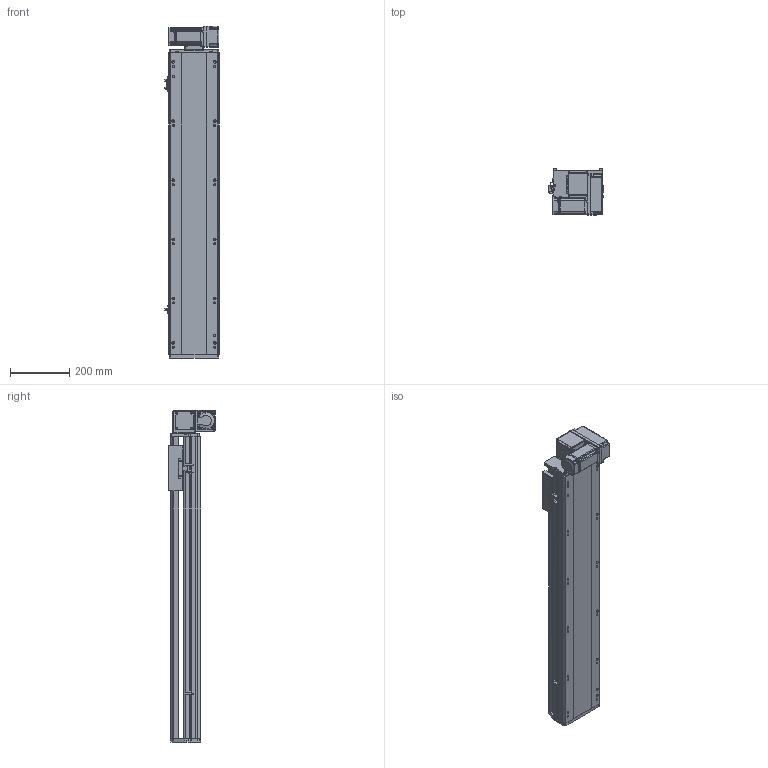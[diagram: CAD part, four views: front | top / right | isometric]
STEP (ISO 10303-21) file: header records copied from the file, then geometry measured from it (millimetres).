
FILE_DESCRIPTION (( 'STEP AP214' ), '1' );
FILE_NAME ('RTB17S-XX-750-RM-M40-C4.STEP', '2025-12-11T08:14:49', ( '' ), ( '' ), 'SwSTEP 2.0', 'SolidWorks 2018', '' );
FILE_SCHEMA (( 'AUTOMOTIVE_DESIGN' ));
Length unit declared in the file: millimetre
Products named in the file (14): RTB14-L-017P^RTB17S-RM-々湍釱蚾饜-400W_RTB17S-XX-XX-RM-M40-C4; RTB14-L-008-M20--萇儂啣^RTB17S-RM-々湍釱蚾饜-400W_RTB17S-XX-XX-RM-M40-C4; RTB14-L-018P^RTB17S-RM-々湍釱蚾饜-400W_RTB17S-XX-XX-RM-M40-C4; RTB17S-L-014-T20--々湍釱^RTB17S-RM-々湍釱蚾饜-400W_RTB17S-XX-XX-RM-M40-C4; RTB14-L-005P--轴承塑胶压盖^RTB17S-RM-皮带座装配-400W_RTB17S-XX-XX-RM-M40-C4; RTB17S-L-001耜醱啣^RTB17S-XX-XX-RM-M40-C4; 400W侜督萇儂^RTB17S-XX-XX-RM-M40-C4; OMRON EE-SX672 传感器^RTB17S-XX-XX-RM-M40-C4; RTB17S-L-007奻裔^RTB17S-XX-XX-RM-M40-C4; RTB17-R-011菁釱^RTB17S-XX-XX-RM-M40-C4; RTB17S-XX-750-RM-M40-C4; RTH13-BL-012覜茼え俋离^RTB17S-XX-XX-RM-M40-C4; RTB17S-RM-々湍釱蚾饜-400W^RTB17S-XX-XX-RM-M40-C4; RTB17S-L-004佪裝蹟譫蟀諉釱^RTB17S-XX-XX-RM-M40-C4
Assembly tree (16 placements, depth 3):
  RTB17S-XX-750-RM-M40-C4
    RTB17-R-011菁釱^RTB17S-XX-XX-RM-M40-C4
    RTB17S-L-007奻裔^RTB17S-XX-XX-RM-M40-C4
    OMRON EE-SX672 传感器^RTB17S-XX-XX-RM-M40-C4  x3
    RTB17S-L-001耜醱啣^RTB17S-XX-XX-RM-M40-C4
    400W侜督萇儂^RTB17S-XX-XX-RM-M40-C4
    RTB17S-L-004佪裝蹟譫蟀諉釱^RTB17S-XX-XX-RM-M40-C4
    RTH13-BL-012覜茼え俋离^RTB17S-XX-XX-RM-M40-C4
    RTB17S-RM-々湍釱蚾饜-400W^RTB17S-XX-XX-RM-M40-C4
      RTB17S-L-014-T20--々湍釱^RTB17S-RM-々湍釱蚾饜-400W_RTB17S-XX-XX-RM-M40-C4
      RTB14-L-005P--轴承塑胶压盖^RTB17S-RM-皮带座装配-400W_RTB17S-XX-XX-RM-M40-C4
      RTB14-L-008-M20--萇儂啣^RTB17S-RM-々湍釱蚾饜-400W_RTB17S-XX-XX-RM-M40-C4
      RTB14-L-017P^RTB17S-RM-々湍釱蚾饜-400W_RTB17S-XX-XX-RM-M40-C4  x2
      RTB14-L-018P^RTB17S-RM-々湍釱蚾饜-400W_RTB17S-XX-XX-RM-M40-C4
Bounding box: 183.5 x 156.5 x 1122.5 mm (x, y, z)
Volume: 10335640.5 mm3; surface area: 1275742 mm2
Topology: 15 solids, 15 shells, 2189 faces, 6033 edges, 3933 vertices
Faces by surface type: plane 1066, cylinder 675, bspline 301, cone 139, torus 8
Entity records: 61865 total; most frequent: CARTESIAN_POINT 17238, ORIENTED_EDGE 8910, DIRECTION 8306, EDGE_CURVE 4455, VERTEX_POINT 2921, AXIS2_PLACEMENT_3D 2851, LINE 2604, VECTOR 2604
